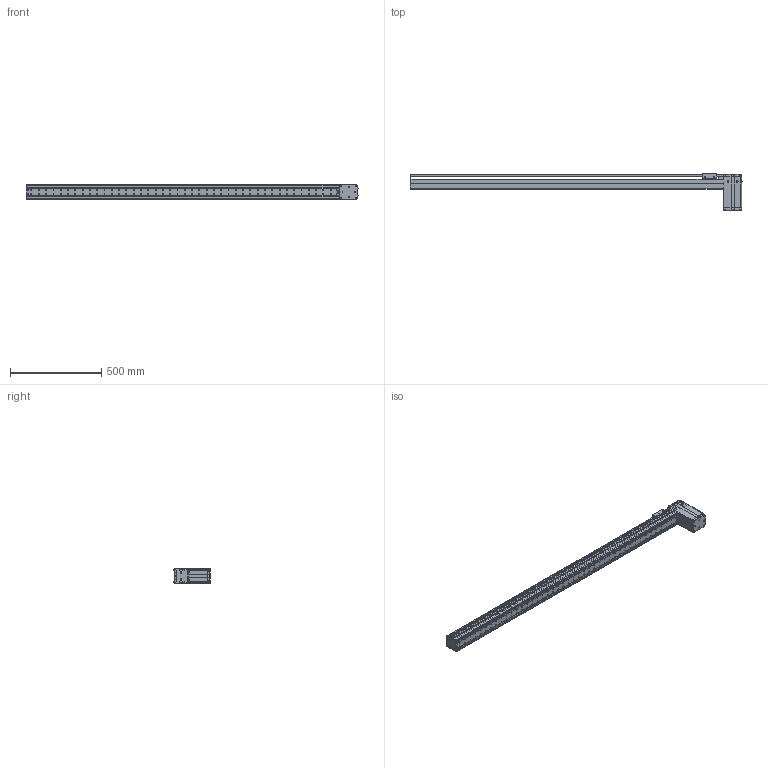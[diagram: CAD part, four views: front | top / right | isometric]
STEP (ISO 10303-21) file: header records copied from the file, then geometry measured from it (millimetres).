
FILE_DESCRIPTION((''),'2;1');
FILE_NAME('BE10_-BU-S_N-F5_IGS_PRT','2017-06-18T',(' '),(''),'PRO/ENGINEER BY PARAMETRIC TECHNOLOGY CORPORATION, 2015030','PRO/ENGINEER BY PARAMETRIC TECHNOLOGY CORPORATION, 2015030','');
FILE_SCHEMA(('CONFIG_CONTROL_DESIGN'));
Products named in the file (1): BE10_-BU-S_N-F5_IGS_PRT
Bounding box: 1820.8 x 202.72 x 78 mm (x, y, z)
Volume: 2471209.1 mm3; surface area: 1682057.7 mm2
Topology: 2 solids, 171 shells, 2258 faces, 6195 edges, 4111 vertices
Faces by surface type: plane 1072, cylinder 1027, cone 103, sphere 28, torus 25, bspline 3
Entity records: 74036 total; most frequent: CARTESIAN_POINT 15251, DIRECTION 12497, ORIENTED_EDGE 11686, EDGE_CURVE 6141, AXIS2_PLACEMENT_3D 4537, VERTEX_POINT 4111, VECTOR 3423, LINE 3423
